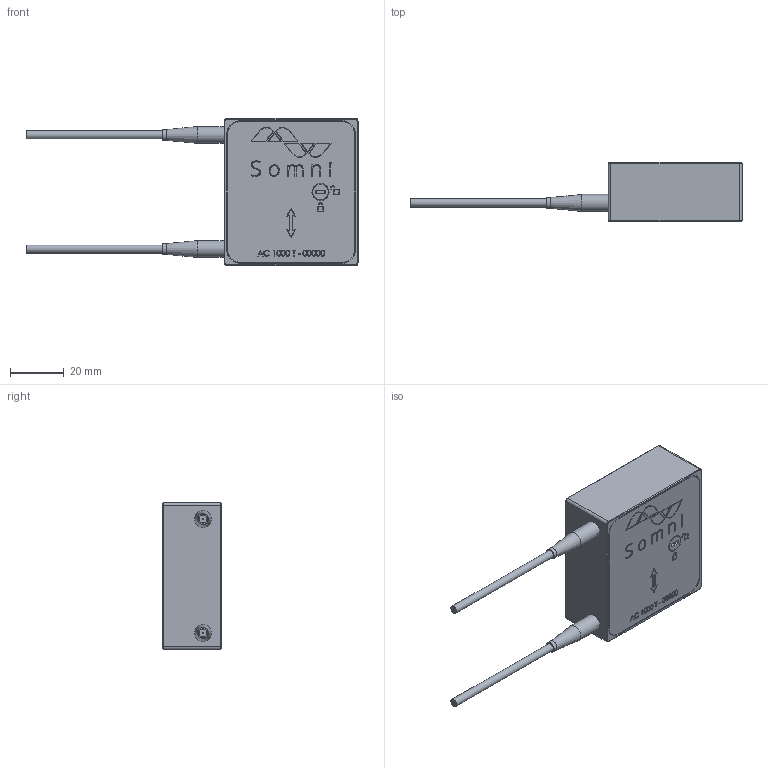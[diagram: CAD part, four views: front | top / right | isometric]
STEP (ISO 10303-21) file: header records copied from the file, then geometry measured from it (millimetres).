
FILE_DESCRIPTION(/* description */ (''),/* implementation_level */ '2;1');
FILE_NAME(/* name */ 'C:/Fusion/AC 1000 T STEP V1.step',/* time_stamp */ '2021-03-16T16:15:47+01:00',/* author */ (''),/* organization */ (''),/* preprocessor_version */ 'ST-DEVELOPER v18.1',/* originating_system */ 'Autodesk Translation Framework v9.10.0.1330',/* authorisation */ '');
FILE_SCHEMA (('AUTOMOTIVE_DESIGN { 1 0 10303 214 3 1 1 }'));
Length unit declared in the file: millimetre
Products named in the file (2): AC 1000 T STEP V1; 00196 AC 1000 T Monobody v35
Assembly tree (1 placements, depth 2):
  AC 1000 T STEP V1
    00196 AC 1000 T Monobody v35
Bounding box: 124 x 22 x 55 mm (x, y, z)
Volume: 61104.1 mm3; surface area: 15269 mm2
Topology: 1 solids, 1 shells, 626 faces, 1600 edges, 1044 vertices
Faces by surface type: bspline 276, plane 244, cylinder 66, cone 38, torus 2
Full cylindrical faces by diameter (mm): 0.5 x2, 3 x2, 3.2 x2, 4 x2, 4.234 x1, 4.5 x3, 5.5 x2, 6 x2, 6.2 x1, 6.3 x2
Entity records: 22383 total; most frequent: CARTESIAN_POINT 8867, ORIENTED_EDGE 3200, DIRECTION 1924, EDGE_CURVE 1600, VERTEX_POINT 1044, LINE 870, VECTOR 870, EDGE_LOOP 696
